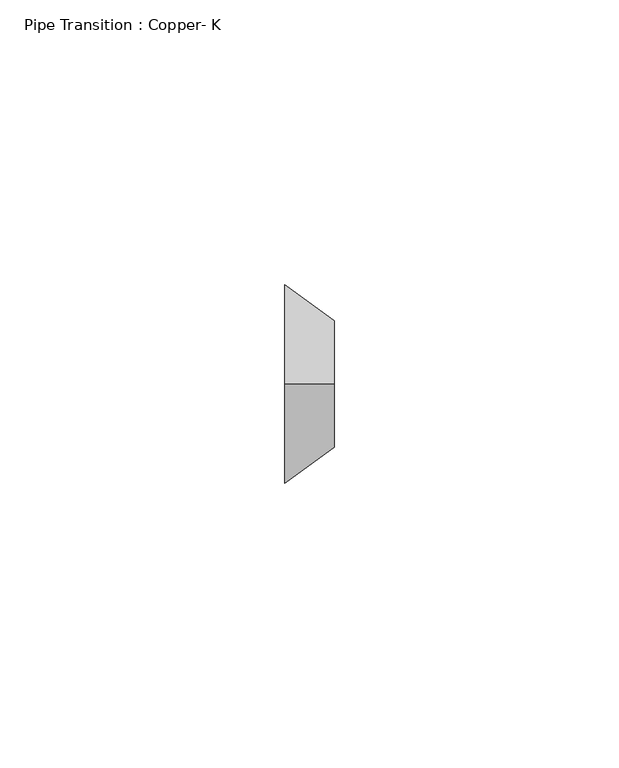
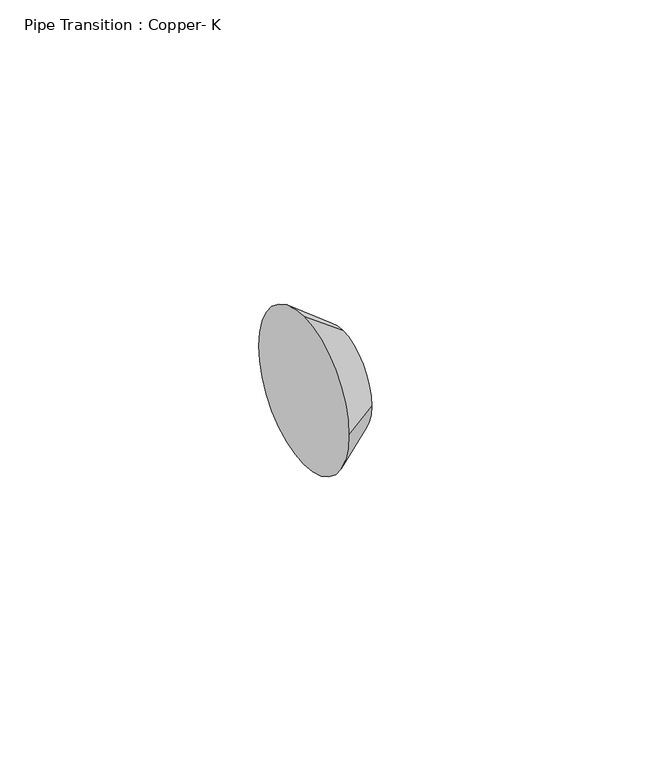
"""IFC4 building model written with IfcOpenShell, lengths in millimetres: pipe fitting geometry, Pipe Transition : Copper- K."""

from ifc_helpers import new_model, si_unit, frame, origin, place, context, project, spatial, polyline, circle_curve, source, transform, mapped, element, save
from ifc_brep_helpers import plane_surface, revolved_surface, advanced_brep


def pipe_transition_copper_k_a9268ca5(model_context):
    return source(origin(), model_context, "Body", "AdvancedBrep", [
        advanced_brep(
        [(8.73125, 0.0, 11.1125), (8.73125, -11.1125, 0.0), (8.73125, 0.0, -11.1125), (8.73125, 11.1125, 0.0), (0.0, 0.0, 17.4625), (0.0, 17.4625, 0.0), (0.0, 0.0, -17.4625), (0.0, -17.4625, 0.0)],
        [
            (0, 1, circle_curve(frame((8.73125, 0.0, 0.0), z_axis=(1.0, 0.0, 0.0), x_axis=(0.0, -1.0, 0.0)), 11.1125)),
            (1, 2, circle_curve(frame((8.73125, 0.0, 0.0), z_axis=(1.0, 0.0, 0.0), x_axis=(0.0, 0.0, -1.0)), 11.1125)),
            (2, 3, circle_curve(frame((8.73125, 0.0, 0.0), z_axis=(1.0, 0.0, 0.0), x_axis=(0.0, 1.0, 0.0)), 11.1125)),
            (3, 0, circle_curve(frame((8.73125, 0.0, 0.0), z_axis=(1.0, 0.0, 0.0), x_axis=(0.0, 0.0, 1.0)), 11.1125)),
            (4, 5, circle_curve(frame((0.0, 0.0, 0.0), z_axis=(-1.0, 0.0, 0.0), x_axis=(0.0, 0.0, 1.0)), 17.4625)),
            (5, 6, circle_curve(frame((0.0, 0.0, 0.0), z_axis=(-1.0, 0.0, 0.0), x_axis=(0.0, 1.0, 0.0)), 17.4625)),
            (6, 7, circle_curve(frame((0.0, 0.0, 0.0), z_axis=(-1.0, 0.0, 0.0), x_axis=(0.0, 0.0, -1.0)), 17.4625)),
            (7, 4, circle_curve(frame((0.0, 0.0, 0.0), z_axis=(-1.0, 0.0, 0.0), x_axis=(0.0, -1.0, 0.0)), 17.4625)),
            (4, 0),
            (3, 5),
            (2, 6),
            (1, 7),
        ],
        [
            plane_surface(frame((8.73125, 0.0, 0.0), z_axis=(1.0, 0.0, 0.0), x_axis=(0.0, 1.0, 0.0))),
            plane_surface(frame((0.0, 0.0, 0.0), z_axis=(-1.0, 0.0, 0.0), x_axis=(0.0, 1.0, 0.0))),
            revolved_surface(polyline([(8.731250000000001, 0.0, 11.112499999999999), (0.0, 0.0, 17.4625)]), (24.0109375, 0.0, 0.0), (-1.0, 0.0, 0.0)),
            revolved_surface(polyline([(8.731250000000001, 11.112499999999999, 0.0), (0.0, 17.4625, 0.0)]), (24.0109375, 0.0, 0.0), (-1.0, 0.0, 0.0)),
            revolved_surface(polyline([(8.731250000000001, 0.0, -11.112499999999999), (0.0, 0.0, -17.4625)]), (24.0109375, 0.0, 0.0), (-1.0, 0.0, 0.0)),
            revolved_surface(polyline([(8.731250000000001, -11.112499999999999, 0.0), (0.0, -17.4625, 0.0)]), (24.0109375, 0.0, 0.0), (-1.0, 0.0, 0.0)),
        ],
        [
            (0, [[1, 2, 3, 4]]),
            (1, [[5, 6, 7, 8]]),
            (2, [[9, -4, 10, -5]]),
            (3, [[-10, -3, 11, -6]]),
            (4, [[-11, -2, 12, -7]]),
            (5, [[-12, -1, -9, -8]]),
        ],
    ),
        advanced_brep(
        [(8.73125, 0.0, 11.1125), (8.73125, -11.1125, 0.0), (8.73125, 0.0, -11.1125), (8.73125, 11.1125, 0.0), (0.0, 0.0, 17.4625), (0.0, 17.4625, 0.0), (0.0, 0.0, -17.4625), (0.0, -17.4625, 0.0)],
        [
            (0, 1, circle_curve(frame((8.73125, 0.0, 0.0), z_axis=(1.0, 0.0, 0.0), x_axis=(0.0, -1.0, 0.0)), 11.1125)),
            (1, 2, circle_curve(frame((8.73125, 0.0, 0.0), z_axis=(1.0, 0.0, -1.4977782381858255e-12), x_axis=(-1.4977972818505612e-12, 0.0, -1.0)), 11.1125)),
            (2, 3, circle_curve(frame((8.73125, 0.0, 0.0), z_axis=(1.0, 0.0, 0.0), x_axis=(0.0, 1.0, 0.0)), 11.1125)),
            (3, 0, circle_curve(frame((8.73125, 0.0, 0.0), z_axis=(1.0, 0.0, 0.0), x_axis=(0.0, 0.0, 1.0)), 11.1125)),
            (4, 5, circle_curve(frame((0.0, 0.0, 0.0), z_axis=(-1.0, 0.0, 0.0), x_axis=(0.0, 0.0, 1.0)), 17.4625)),
            (5, 6, circle_curve(frame((0.0, 0.0, 0.0), z_axis=(-1.0, 0.0, 0.0), x_axis=(0.0, 1.0, 0.0)), 17.4625)),
            (6, 7, circle_curve(frame((0.0, 0.0, 0.0), z_axis=(-1.0, 0.0, 1.4977782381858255e-12), x_axis=(-1.4977972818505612e-12, 0.0, -1.0)), 17.4625)),
            (7, 4, circle_curve(frame((0.0, 0.0, 0.0), z_axis=(-1.0, 0.0, 0.0), x_axis=(0.0, -1.0, 0.0)), 17.4625)),
            (4, 0),
            (3, 5),
            (2, 6),
            (1, 7),
        ],
        [
            plane_surface(frame((8.73125, 0.0, 0.0), z_axis=(1.0, 0.0, 0.0), x_axis=(0.0, 1.0, 0.0))),
            plane_surface(frame((0.0, 0.0, 0.0), z_axis=(-1.0, 0.0, 0.0), x_axis=(0.0, 1.0, 0.0))),
            revolved_surface(polyline([(8.731250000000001, 0.0, 11.112499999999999), (0.0, 0.0, 17.4625)]), (24.0109375, 0.0, 0.0), (-1.0, 0.0, 0.0)),
            revolved_surface(polyline([(8.731250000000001, 11.112499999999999, 0.0), (0.0, 17.4625, 0.0)]), (24.0109375, 0.0, 0.0), (-1.0, 0.0, 0.0)),
            revolved_surface(polyline([(8.731250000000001, 0.0, -11.112499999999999), (-2.6155078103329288e-11, 0.0, -17.46250000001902)]), (24.0109375, 0.0, 0.0), (-1.0, 0.0, 1.4977782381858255e-12)),
            revolved_surface(polyline([(8.731250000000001, -11.112499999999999, 0.0), (0.0, -17.4625, 0.0)]), (24.0109375, 0.0, 0.0), (-1.0, 0.0, 0.0)),
        ],
        [
            (0, [[1, 2, 3, 4]]),
            (1, [[5, 6, 7, 8]]),
            (2, [[9, -4, 10, -5]]),
            (3, [[-10, -3, 11, -6]]),
            (4, [[-11, -2, 12, -7]]),
            (5, [[-12, -1, -9, -8]]),
        ],
    ),
    ])


if __name__ == "__main__":
    model = new_model("IFC4")
    model_context = context("Model", 3, world=origin())
    ifc_project = project(units=[si_unit("LENGTHUNIT", "METRE", prefix="MILLI")], contexts=[model_context])
    site = spatial("IfcSite", under=ifc_project)
    building = spatial("IfcBuilding", under=site)
    placement = place(None, origin())
    pipe_transition_copper_k_shape = pipe_transition_copper_k_a9268ca5(model_context)
    element("IfcPipeFitting", 1, ObjectType="Pipe Transition : Copper- K", at=placement, inside=building, context=model_context, shape_type="MappedRepresentation", body=[
        mapped(pipe_transition_copper_k_shape, transform((0.0, 0.0, 0.0), x_axis=(1.0, 0.0, 0.0), y_axis=(0.0, 1.0, 0.0), z_axis=(0.0, 0.0, 1.0))),
    ])
    save(model, "model.ifc")
